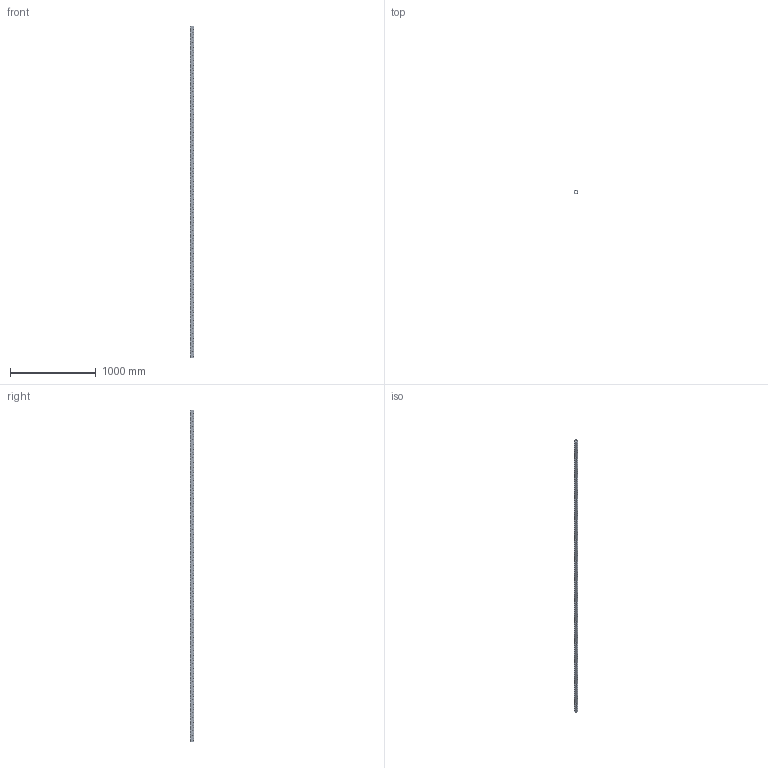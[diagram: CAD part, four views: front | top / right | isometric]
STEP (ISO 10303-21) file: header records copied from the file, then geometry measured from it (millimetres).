
FILE_DESCRIPTION(('CATIA V5 STEP Exchange'),'2;1');
FILE_NAME('U:\Room\唐宝山\EGT002\46-01-010358-01-EGT002-3868.stp','2021-08-25T00:59:52+00:00',('none'),('none'),'CATIA Version 5 Release 21 GA (IN-10)','CATIA V5 STEP AP203','none');
FILE_SCHEMA(('CONFIG_CONTROL_DESIGN'));
Products named in the file (1): 46-01-010358-01-EGT002-3868
Bounding box: 50 x 50 x 3868 mm (x, y, z)
Volume: 2756162.2 mm3; surface area: 1327099.8 mm2
Topology: 1 solids, 1 shells, 5244 faces, 14436 edges, 8936 vertices
Faces by surface type: cone 3096, cylinder 2122, plane 26
Entity records: 222463 total; most frequent: CARTESIAN_POINT 96240, ORIENTED_EDGE 28872, DIRECTION 20073, EDGE_CURVE 14436, AXIS2_PLACEMENT_3D 9282, VERTEX_POINT 8936, EDGE_LOOP 7052, VECTOR 5548
